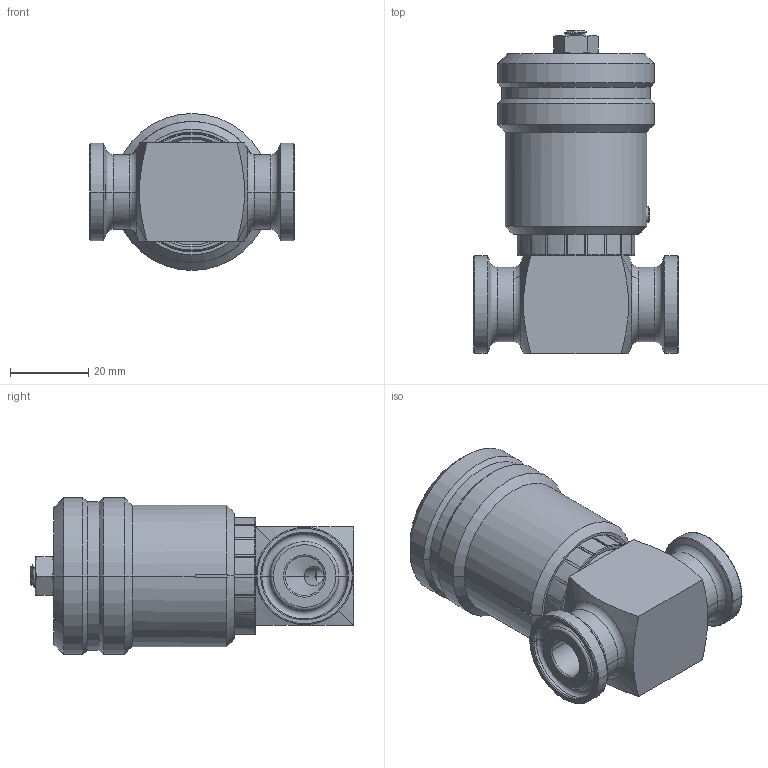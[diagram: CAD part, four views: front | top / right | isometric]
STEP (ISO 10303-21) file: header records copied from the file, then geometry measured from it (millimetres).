
FILE_DESCRIPTION((''),'2;1');
FILE_NAME('65823061100','2020-07-27T13:48:36',('alfio.taboni'),('CDM Tecnoconsulting'),'CREO PARAMETRIC BY PTC INC, 2020053','CREO PARAMETRIC BY PTC INC, 2020053','');
FILE_SCHEMA(());
Length unit declared in the file: millimetre
Products named in the file (1): 65823061100
Bounding box: 52 x 82.4 x 40 mm (x, y, z)
Surface area: 29619.5 mm2 (no closed solid volume)
Topology: 0 solids, 36 shells, 454 faces, 1691 edges, 1263 vertices
Faces by surface type: plane 182, cylinder 106, cone 65, bspline 45, torus 40, extrusion 16
Entity records: 34710 total; most frequent: CARTESIAN_POINT 21647, ORIENTED_EDGE 2704, DIRECTION 2230, EDGE_CURVE 1687, VERTEX_POINT 1263, VECTOR 826, LINE 810, AXIS2_PLACEMENT_3D 702
